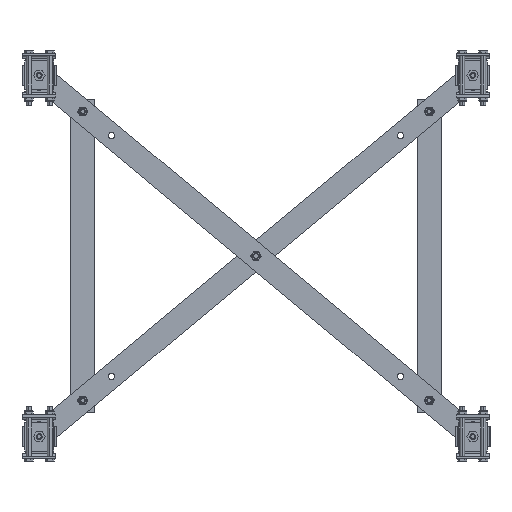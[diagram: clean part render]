
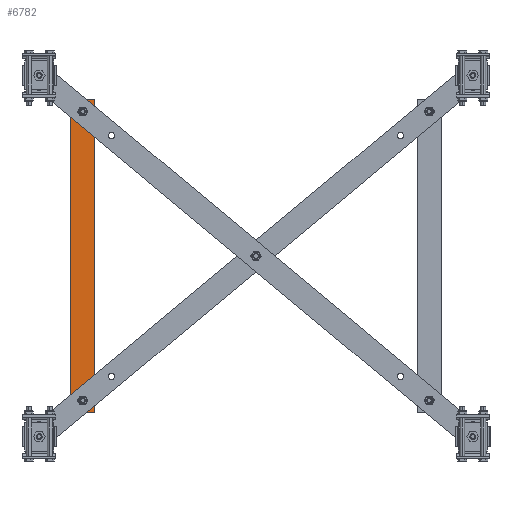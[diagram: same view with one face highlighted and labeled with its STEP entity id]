
A CAD part, front view. The second image highlights one B-rep face of the part: STEP entity #6782.
In plain terms, the highlighted planar face has unit normal (0, -1, 0).
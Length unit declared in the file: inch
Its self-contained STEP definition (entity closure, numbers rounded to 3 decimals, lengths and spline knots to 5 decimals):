
#101 = CIRCLE ( 'NONE', #2046, 0.26563 ) ;
#125 = DIRECTION ( 'NONE',  ( 0., 0., 1. ) ) ;
#276 = EDGE_CURVE ( 'NONE', #415, #2309, #5490, .T. ) ;
#327 = CARTESIAN_POINT ( 'NONE',  ( 0., -0.125, 11.73438 ) ) ;
#340 = EDGE_CURVE ( 'NONE', #5085, #2407, #1680, .T. ) ;
#346 = EDGE_CURVE ( 'NONE', #2309, #5085, #8139, .T. ) ;
#415 = VERTEX_POINT ( 'NONE', #9035 ) ;
#642 = VERTEX_POINT ( 'NONE', #4199 ) ;
#678 = DIRECTION ( 'NONE',  ( 0., 1., 0. ) ) ;
#1306 = DIRECTION ( 'NONE',  ( 0., 0., 1. ) ) ;
#1680 = LINE ( 'NONE', #6887, #6645 ) ;
#2021 = ORIENTED_EDGE ( 'NONE', *, *, #340, .F. ) ;
#2046 = AXIS2_PLACEMENT_3D ( 'NONE', #2073, #3553, #1306 ) ;
#2073 = CARTESIAN_POINT ( 'NONE',  ( 0., -0.125, 12. ) ) ;
#2119 = CARTESIAN_POINT ( 'NONE',  ( -1., -0.125, 13. ) ) ;
#2309 = VERTEX_POINT ( 'NONE', #2119 ) ;
#2357 = ORIENTED_EDGE ( 'NONE', *, *, #8117, .T. ) ;
#2389 = EDGE_CURVE ( 'NONE', #642, #7517, #4005, .T. ) ;
#2407 = VERTEX_POINT ( 'NONE', #3593 ) ;
#2443 = FACE_OUTER_BOUND ( 'NONE', #6767, .T. ) ;
#2553 = ORIENTED_EDGE ( 'NONE', *, *, #4124, .T. ) ;
#2766 = EDGE_LOOP ( 'NONE', ( #2357, #2553 ) ) ;
#2783 = ORIENTED_EDGE ( 'NONE', *, *, #7953, .T. ) ;
#2986 = ORIENTED_EDGE ( 'NONE', *, *, #2389, .T. ) ;
#3118 = CIRCLE ( 'NONE', #5251, 0.26563 ) ;
#3290 = CARTESIAN_POINT ( 'NONE',  ( 0., -0.125, 12.26563 ) ) ;
#3553 = DIRECTION ( 'NONE',  ( 0., 1., 0. ) ) ;
#3593 = CARTESIAN_POINT ( 'NONE',  ( 1., -0.125, -13. ) ) ;
#3601 = AXIS2_PLACEMENT_3D ( 'NONE', #9233, #4766, #8752 ) ;
#3700 = CARTESIAN_POINT ( 'NONE',  ( -1., -0.125, -13. ) ) ;
#4005 = CIRCLE ( 'NONE', #3601, 0.26563 ) ;
#4087 = CARTESIAN_POINT ( 'NONE',  ( 0., -0.125, -11.73438 ) ) ;
#4105 = LINE ( 'NONE', #8354, #8089 ) ;
#4124 = EDGE_CURVE ( 'NONE', #6698, #8772, #7362, .T. ) ;
#4160 = DIRECTION ( 'NONE',  ( 0., 0., -1. ) ) ;
#4199 = CARTESIAN_POINT ( 'NONE',  ( 0., -0.125, -12.26563 ) ) ;
#4226 = AXIS2_PLACEMENT_3D ( 'NONE', #7191, #678, #7850 ) ;
#4401 = DIRECTION ( 'NONE',  ( 0., 1., 0. ) ) ;
#4609 = FACE_BOUND ( 'NONE', #2766, .T. ) ;
#4653 = DIRECTION ( 'NONE',  ( 0., 1., 0. ) ) ;
#4766 = DIRECTION ( 'NONE',  ( 0., 1., 0. ) ) ;
#5024 = DIRECTION ( 'NONE',  ( 0., 0., 1. ) ) ;
#5085 = VERTEX_POINT ( 'NONE', #6975 ) ;
#5156 = PLANE ( 'NONE',  #4226 ) ;
#5251 = AXIS2_PLACEMENT_3D ( 'NONE', #6626, #4653, #125 ) ;
#5276 = DIRECTION ( 'NONE',  ( -1., 0., 0. ) ) ;
#5490 = LINE ( 'NONE', #3700, #6900 ) ;
#5498 = ORIENTED_EDGE ( 'NONE', *, *, #276, .F. ) ;
#5598 = FACE_BOUND ( 'NONE', #6396, .T. ) ;
#5660 = AXIS2_PLACEMENT_3D ( 'NONE', #8652, #4401, #5024 ) ;
#6396 = EDGE_LOOP ( 'NONE', ( #2783, #2986 ) ) ;
#6569 = ORIENTED_EDGE ( 'NONE', *, *, #8663, .F. ) ;
#6626 = CARTESIAN_POINT ( 'NONE',  ( 0., -0.125, -12. ) ) ;
#6645 = VECTOR ( 'NONE', #4160, 39.37008 ) ;
#6698 = VERTEX_POINT ( 'NONE', #327 ) ;
#6715 = VECTOR ( 'NONE', #8706, 39.37008 ) ;
#6767 = EDGE_LOOP ( 'NONE', ( #5498, #6569, #2021, #8603 ) ) ;
#6782 = ADVANCED_FACE ( 'NONE', ( #4609, #5598, #2443 ), #5156, .F. ) ;
#6887 = CARTESIAN_POINT ( 'NONE',  ( 1., -0.125, -13. ) ) ;
#6900 = VECTOR ( 'NONE', #7895, 39.37008 ) ;
#6975 = CARTESIAN_POINT ( 'NONE',  ( 1., -0.125, 13. ) ) ;
#7191 = CARTESIAN_POINT ( 'NONE',  ( -1., -0.125, 13. ) ) ;
#7362 = CIRCLE ( 'NONE', #5660, 0.26563 ) ;
#7517 = VERTEX_POINT ( 'NONE', #4087 ) ;
#7850 = DIRECTION ( 'NONE',  ( 0., 0., 1. ) ) ;
#7895 = DIRECTION ( 'NONE',  ( 0., 0., 1. ) ) ;
#7953 = EDGE_CURVE ( 'NONE', #7517, #642, #3118, .T. ) ;
#8089 = VECTOR ( 'NONE', #5276, 39.37008 ) ;
#8117 = EDGE_CURVE ( 'NONE', #8772, #6698, #101, .T. ) ;
#8139 = LINE ( 'NONE', #8330, #6715 ) ;
#8330 = CARTESIAN_POINT ( 'NONE',  ( -1., -0.125, 13. ) ) ;
#8354 = CARTESIAN_POINT ( 'NONE',  ( -1., -0.125, -13. ) ) ;
#8603 = ORIENTED_EDGE ( 'NONE', *, *, #346, .F. ) ;
#8652 = CARTESIAN_POINT ( 'NONE',  ( 0., -0.125, 12. ) ) ;
#8663 = EDGE_CURVE ( 'NONE', #2407, #415, #4105, .T. ) ;
#8706 = DIRECTION ( 'NONE',  ( 1., 0., 0. ) ) ;
#8752 = DIRECTION ( 'NONE',  ( 0., 0., 1. ) ) ;
#8772 = VERTEX_POINT ( 'NONE', #3290 ) ;
#9035 = CARTESIAN_POINT ( 'NONE',  ( -1., -0.125, -13. ) ) ;
#9233 = CARTESIAN_POINT ( 'NONE',  ( 0., -0.125, -12. ) ) ;
